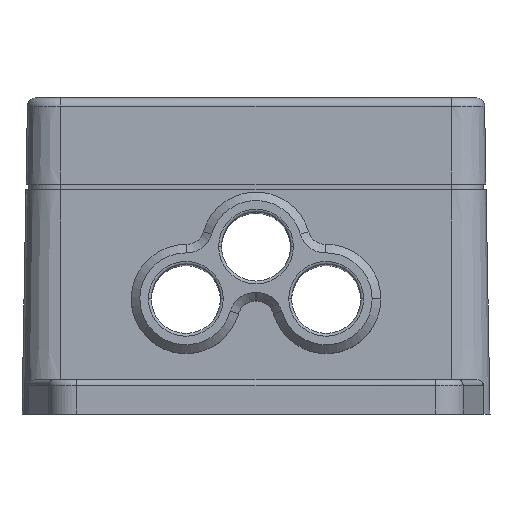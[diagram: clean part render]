
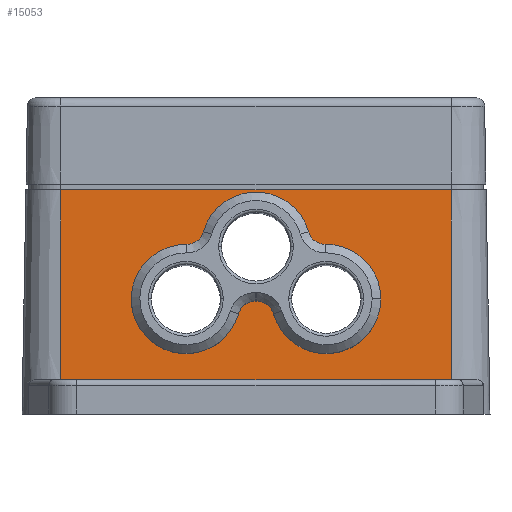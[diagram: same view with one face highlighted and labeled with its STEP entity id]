
A CAD part, front view. The second image highlights one B-rep face of the part: STEP entity #15053.
In plain terms, the highlighted planar face has unit normal (0, -1, 0.018).
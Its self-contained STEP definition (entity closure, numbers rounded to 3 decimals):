
#120 = CARTESIAN_POINT ( 'NONE',  ( 646.603, -371.219, 14.3 ) ) ;
#304 = EDGE_LOOP ( 'NONE', ( #23254, #2966 ) ) ;
#367 = CARTESIAN_POINT ( 'NONE',  ( 646.603, -370.835, 36.3 ) ) ;
#450 = CARTESIAN_POINT ( 'NONE',  ( 601.27, -370.835, 36.3 ) ) ;
#502 = VERTEX_POINT ( 'NONE', #21566 ) ;
#949 = ORIENTED_EDGE ( 'NONE', *, *, #16585, .T. ) ;
#1320 = EDGE_CURVE ( 'NONE', #1385, #18176, #10746, .T. ) ;
#1385 = VERTEX_POINT ( 'NONE', #10539 ) ;
#1597 = DIRECTION ( 'NONE',  ( 0., -1., 0.017 ) ) ;
#1636 = AXIS2_PLACEMENT_3D ( 'NONE', #9408, #7430, #13511 ) ;
#1798 = AXIS2_PLACEMENT_3D ( 'NONE', #10935, #16529, #12572 ) ;
#2281 = CARTESIAN_POINT ( 'NONE',  ( 612.603, -370.885, 33.395 ) ) ;
#2725 = CARTESIAN_POINT ( 'NONE',  ( 601.27, -371.411, 3.3 ) ) ;
#2808 = DIRECTION ( 'NONE',  ( 0., -1., 0.017 ) ) ;
#2834 = CARTESIAN_POINT ( 'NONE',  ( 646.603, -370.835, 36.3 ) ) ;
#2923 = DIRECTION ( 'NONE',  ( 0., -1., 0.017 ) ) ;
#2966 = ORIENTED_EDGE ( 'NONE', *, *, #23307, .F. ) ;
#3010 = EDGE_CURVE ( 'NONE', #9549, #502, #10371, .T. ) ;
#3165 = DIRECTION ( 'NONE',  ( 0., -0.017, -1. ) ) ;
#3789 = CARTESIAN_POINT ( 'NONE',  ( 646.603, -370.835, 36.3 ) ) ;
#4117 = DIRECTION ( 'NONE',  ( 0., -1., 0.017 ) ) ;
#4198 = CARTESIAN_POINT ( 'NONE',  ( 646.603, -371.027, 25.3 ) ) ;
#4436 = CARTESIAN_POINT ( 'NONE',  ( 600.403, -371.166, 17.298 ) ) ;
#4472 = EDGE_CURVE ( 'NONE', #23762, #19593, #15457, .T. ) ;
#4724 = ORIENTED_EDGE ( 'NONE', *, *, #14018, .F. ) ;
#5586 = B_SPLINE_CURVE_WITH_KNOTS ( 'NONE', 3,
 ( #367, #4198, #120, #22837 ),
 .UNSPECIFIED., .F., .F.,
 ( 4, 4 ),
 ( 0., 1. ),
 .UNSPECIFIED. ) ;
#5799 = PLANE ( 'NONE',  #1636 ) ;
#5808 = EDGE_CURVE ( 'NONE', #7299, #14377, #21521, .T. ) ;
#6204 = CARTESIAN_POINT ( 'NONE',  ( 646.603, -371.411, 3.3 ) ) ;
#6378 = CARTESIAN_POINT ( 'NONE',  ( 612.603, -371.008, 26.396 ) ) ;
#6427 = B_SPLINE_CURVE_WITH_KNOTS ( 'NONE', 3,
 ( #7786, #450, #17226, #3789 ),
 .UNSPECIFIED., .F., .F.,
 ( 4, 4 ),
 ( 0., 1. ),
 .UNSPECIFIED. ) ;
#6549 = AXIS2_PLACEMENT_3D ( 'NONE', #6378, #4117, #8130 ) ;
#6769 = CARTESIAN_POINT ( 'NONE',  ( 578.603, -371.411, 3.3 ) ) ;
#7171 = AXIS2_PLACEMENT_3D ( 'NONE', #4436, #17749, #15880 ) ;
#7299 = VERTEX_POINT ( 'NONE', #17611 ) ;
#7430 = DIRECTION ( 'NONE',  ( 0., -1., 0.017 ) ) ;
#7786 = CARTESIAN_POINT ( 'NONE',  ( 578.603, -370.835, 36.3 ) ) ;
#7789 = CARTESIAN_POINT ( 'NONE',  ( 624.803, -371.289, 10.299 ) ) ;
#8130 = DIRECTION ( 'NONE',  ( 0., -0.017, -1. ) ) ;
#8229 = VERTEX_POINT ( 'NONE', #16496 ) ;
#8927 = CIRCLE ( 'NONE', #6549, 7. ) ;
#9301 = CIRCLE ( 'NONE', #20022, 7. ) ;
#9318 = VERTEX_POINT ( 'NONE', #2834 ) ;
#9400 = DIRECTION ( 'NONE',  ( 0., -0.017, -1. ) ) ;
#9408 = CARTESIAN_POINT ( 'NONE',  ( 612.603, -370.817, 37.3 ) ) ;
#9549 = VERTEX_POINT ( 'NONE', #7789 ) ;
#9898 = FACE_BOUND ( 'NONE', #11857, .T. ) ;
#10020 = CARTESIAN_POINT ( 'NONE',  ( 624.803, -371.166, 17.298 ) ) ;
#10145 = B_SPLINE_CURVE_WITH_KNOTS ( 'NONE', 3,
 ( #12864, #18436, #21936, #6769 ),
 .UNSPECIFIED., .F., .F.,
 ( 4, 4 ),
 ( 0., 1. ),
 .UNSPECIFIED. ) ;
#10371 = CIRCLE ( 'NONE', #10761, 7. ) ;
#10539 = CARTESIAN_POINT ( 'NONE',  ( 600.403, -371.289, 10.299 ) ) ;
#10746 = CIRCLE ( 'NONE', #7171, 7. ) ;
#10761 = AXIS2_PLACEMENT_3D ( 'NONE', #10020, #2808, #21455 ) ;
#10918 = CIRCLE ( 'NONE', #1798, 7. ) ;
#10935 = CARTESIAN_POINT ( 'NONE',  ( 624.803, -371.166, 17.298 ) ) ;
#11150 = CARTESIAN_POINT ( 'NONE',  ( 612.603, -371.008, 26.396 ) ) ;
#11567 = ORIENTED_EDGE ( 'NONE', *, *, #21676, .F. ) ;
#11677 = CARTESIAN_POINT ( 'NONE',  ( 623.937, -371.411, 3.3 ) ) ;
#11857 = EDGE_LOOP ( 'NONE', ( #22657, #11567 ) ) ;
#12572 = DIRECTION ( 'NONE',  ( 0., -0.017, -1. ) ) ;
#12864 = CARTESIAN_POINT ( 'NONE',  ( 578.603, -370.835, 36.3 ) ) ;
#13511 = DIRECTION ( 'NONE',  ( -1., 0., 0. ) ) ;
#14018 = EDGE_CURVE ( 'NONE', #8229, #9318, #6427, .T. ) ;
#14377 = VERTEX_POINT ( 'NONE', #2281 ) ;
#15053 = ADVANCED_FACE ( 'NONE', ( #9898, #20724, #15242, #22806 ), #5799, .T. ) ;
#15242 = FACE_BOUND ( 'NONE', #20048, .T. ) ;
#15457 = B_SPLINE_CURVE_WITH_KNOTS ( 'NONE', 3,
 ( #23472, #2725, #11677, #6204 ),
 .UNSPECIFIED., .F., .F.,
 ( 4, 4 ),
 ( 0., 1. ),
 .UNSPECIFIED. ) ;
#15768 = EDGE_LOOP ( 'NONE', ( #4724, #949, #24142, #16818 ) ) ;
#15880 = DIRECTION ( 'NONE',  ( 0., -0.017, -1. ) ) ;
#16496 = CARTESIAN_POINT ( 'NONE',  ( 578.603, -370.835, 36.3 ) ) ;
#16529 = DIRECTION ( 'NONE',  ( 0., -1., 0.017 ) ) ;
#16585 = EDGE_CURVE ( 'NONE', #8229, #23762, #10145, .T. ) ;
#16818 = ORIENTED_EDGE ( 'NONE', *, *, #18098, .F. ) ;
#17226 = CARTESIAN_POINT ( 'NONE',  ( 623.937, -370.835, 36.3 ) ) ;
#17611 = CARTESIAN_POINT ( 'NONE',  ( 612.603, -371.13, 19.398 ) ) ;
#17749 = DIRECTION ( 'NONE',  ( 0., -1., 0.017 ) ) ;
#18098 = EDGE_CURVE ( 'NONE', #9318, #19593, #5586, .T. ) ;
#18176 = VERTEX_POINT ( 'NONE', #22192 ) ;
#18436 = CARTESIAN_POINT ( 'NONE',  ( 578.603, -371.027, 25.3 ) ) ;
#19593 = VERTEX_POINT ( 'NONE', #21275 ) ;
#19934 = ORIENTED_EDGE ( 'NONE', *, *, #5808, .F. ) ;
#20022 = AXIS2_PLACEMENT_3D ( 'NONE', #20196, #2923, #3165 ) ;
#20048 = EDGE_LOOP ( 'NONE', ( #19934, #22238 ) ) ;
#20196 = CARTESIAN_POINT ( 'NONE',  ( 600.403, -371.166, 17.298 ) ) ;
#20724 = FACE_BOUND ( 'NONE', #304, .T. ) ;
#21275 = CARTESIAN_POINT ( 'NONE',  ( 646.603, -371.411, 3.3 ) ) ;
#21455 = DIRECTION ( 'NONE',  ( 0., -0.017, -1. ) ) ;
#21521 = CIRCLE ( 'NONE', #23077, 7. ) ;
#21566 = CARTESIAN_POINT ( 'NONE',  ( 624.803, -371.044, 24.297 ) ) ;
#21676 = EDGE_CURVE ( 'NONE', #18176, #1385, #9301, .T. ) ;
#21935 = EDGE_CURVE ( 'NONE', #14377, #7299, #8927, .T. ) ;
#21936 = CARTESIAN_POINT ( 'NONE',  ( 578.603, -371.219, 14.3 ) ) ;
#22098 = CARTESIAN_POINT ( 'NONE',  ( 578.603, -371.411, 3.3 ) ) ;
#22192 = CARTESIAN_POINT ( 'NONE',  ( 600.403, -371.044, 24.297 ) ) ;
#22238 = ORIENTED_EDGE ( 'NONE', *, *, #21935, .F. ) ;
#22657 = ORIENTED_EDGE ( 'NONE', *, *, #1320, .F. ) ;
#22806 = FACE_OUTER_BOUND ( 'NONE', #15768, .T. ) ;
#22837 = CARTESIAN_POINT ( 'NONE',  ( 646.603, -371.411, 3.3 ) ) ;
#23077 = AXIS2_PLACEMENT_3D ( 'NONE', #11150, #1597, #9400 ) ;
#23254 = ORIENTED_EDGE ( 'NONE', *, *, #3010, .F. ) ;
#23307 = EDGE_CURVE ( 'NONE', #502, #9549, #10918, .T. ) ;
#23472 = CARTESIAN_POINT ( 'NONE',  ( 578.603, -371.411, 3.3 ) ) ;
#23762 = VERTEX_POINT ( 'NONE', #22098 ) ;
#24142 = ORIENTED_EDGE ( 'NONE', *, *, #4472, .T. ) ;
